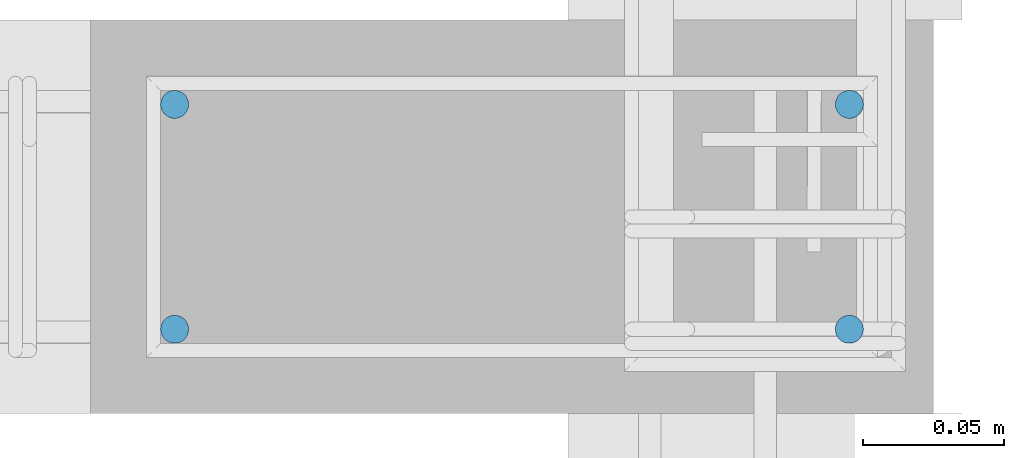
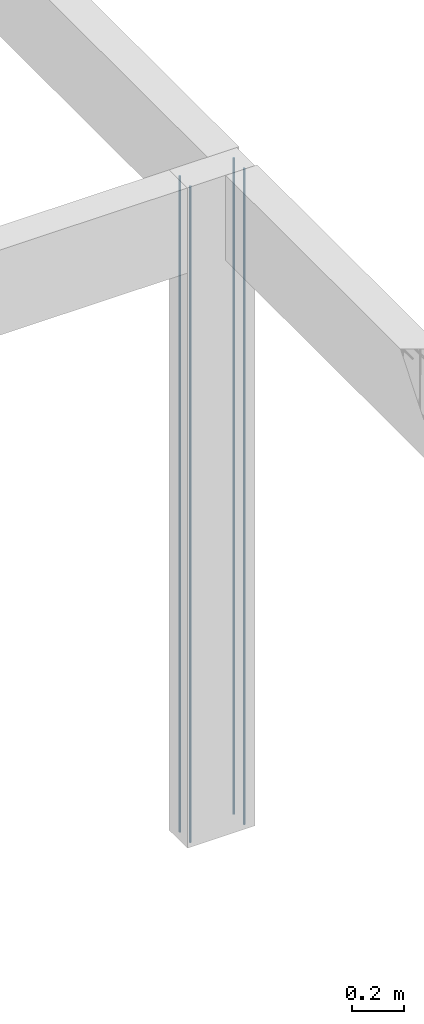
# One storey, part 62 of 236: 4 reinforcing bars.
"""IFC4 building model written with IfcOpenShell, lengths in centimetres."""

import ifcopenshell
import ifcopenshell.guid

model = None  # the IFC model being written
_history = None  # IfcOwnerHistory: only IFC2X3 demands one
_inside = {}  # id of a spatial element -> (the spatial element, [elements in it])
_under = {}  # id of a project, library or spatial element -> (it, [spatial elements below it])
_declared = {}  # id of a project -> (the project, [libraries it declares])
_typed = {}  # id of a type object -> (the type object, [elements of that type])
_made_of = {}  # id of a material, layer set ... -> (it, [elements and type objects made of it])


def new_model(schema):
    """Start an empty IFC model of exactly this schema.

    Asked for "IFC4X3", IfcOpenShell would pick the latest addendum, in which some entities
    have other attributes; the version numbers below select the first issue.
    IFC2X3 requires an IfcOwnerHistory on every rooted entity: one is made here for all.
    """
    global model, _history
    if schema == "IFC4X3":
        model = ifcopenshell.file(schema_version=(4, 3, 0, 0))
    else:
        model = ifcopenshell.file(schema=schema)
    _inside.clear()
    _under.clear()
    _declared.clear()
    _typed.clear()
    _made_of.clear()
    _history = None
    if model.schema == "IFC2X3":
        org = make("IfcOrganization", Name="unknown")
        user = make(
            "IfcPersonAndOrganization",
            ThePerson=make("IfcPerson", FamilyName="unknown"),
            TheOrganization=org,
        )
        app = make(
            "IfcApplication",
            ApplicationDeveloper=org,
            Version="unknown",
            ApplicationFullName="unknown",
            ApplicationIdentifier="unknown",
        )
        _history = make(
            "IfcOwnerHistory",
            OwningUser=user,
            OwningApplication=app,
            ChangeAction="ADDED",
            CreationDate=0,
        )
    return model


def make(cls, **values):
    """One entity of the class cls with the attributes given. An attribute that is None is left unset."""
    return model.create_entity(
        cls, **{name: value for name, value in values.items() if value is not None}
    )


def entity(cls, *values):
    """Any entity or typed value of the class cls, its attributes in the order of the schema. None: left unset."""
    e = model.create_entity(cls)
    for i, value in enumerate(values):
        if value is not None:
            e[i] = value
    return e


def rooted(cls, **values):
    """An entity with a GlobalId (a new one), such as an element, a storey or a relation."""
    return make(cls, GlobalId=ifcopenshell.guid.new(), OwnerHistory=_history, **values)


def si_unit(unit_type, name, prefix=None):
    """IfcSIUnit, for example si_unit("LENGTHUNIT", "METRE", prefix="MILLI")."""
    return make("IfcSIUnit", UnitType=unit_type, Prefix=prefix, Name=name)


def derived_unit(unit_type, elements):
    """IfcDerivedUnit: a product of units, each with its exponent."""
    return make(
        "IfcDerivedUnit",
        Elements=[
            make("IfcDerivedUnitElement", Unit=unit, Exponent=power)
            for unit, power in elements
        ],
        UnitType=unit_type,
    )


def assignment(units):
    """IfcUnitAssignment: the units of a project."""
    return None if units is None else make("IfcUnitAssignment", Units=units)


def point(xyz):
    """IfcCartesianPoint."""
    return None if xyz is None else make("IfcCartesianPoint", Coordinates=xyz)


def direction(xyz):
    """IfcDirection."""
    return None if xyz is None else make("IfcDirection", DirectionRatios=xyz)


def frame(location, z_axis=None, x_axis=None):
    """IfcAxis2Placement3D, a coordinate frame: its origin and axes. An axis left out is left unset."""
    return make(
        "IfcAxis2Placement3D",
        Location=point(location),
        Axis=direction(z_axis),
        RefDirection=direction(x_axis),
    )


def origin_with_axes():
    """The frame at (0, 0, 0) with the z axis (0, 0, 1) and the x axis (1, 0, 0) written out."""
    return frame((0.0, 0.0, 0.0), z_axis=(0.0, 0.0, 1.0), x_axis=(1.0, 0.0, 0.0))


def place(relative_to, where):
    """IfcLocalPlacement: puts the frame where relative to a parent placement (None: the world)."""
    return make(
        "IfcLocalPlacement", PlacementRelTo=relative_to, RelativePlacement=where
    )


def context(
    kind, dimensions, precision=None, world=None, true_north=None, identifier=None
):
    """IfcGeometricRepresentationContext, for example the 3D "Model" context."""
    return make(
        "IfcGeometricRepresentationContext",
        ContextIdentifier=identifier,
        ContextType=kind,
        CoordinateSpaceDimension=dimensions,
        Precision=precision,
        WorldCoordinateSystem=world,
        TrueNorth=true_north,
    )


def project(units=None, contexts=None):
    """IfcProject with its units and contexts."""
    return rooted(
        "IfcProject",
        Name="project",
        RepresentationContexts=contexts,
        UnitsInContext=assignment(units),
    )


def spatial(cls, under=None, at=None, **own):
    """A site, building, storey or space (cls), placed at a placement, below another one or the project."""
    s = rooted(cls, ObjectPlacement=at, **own)
    if under is not None:
        _under.setdefault(under.id(), (under, []))[1].append(s)
    return s


def shape(context_of_items, identifier, shape_type, items):
    """IfcShapeRepresentation: the items that make up one representation, for example the "Body"."""
    return make(
        "IfcShapeRepresentation",
        ContextOfItems=context_of_items,
        RepresentationIdentifier=identifier,
        RepresentationType=shape_type,
        Items=items,
    )


def made_of(thing, what):
    """Note that an element or type object is made of a material, layer set ...; save() writes the relation."""
    if what is not None:
        _made_of.setdefault(what.id(), (what, []))[1].append(thing)
    return thing


def element(
    cls,
    number,
    at=None,
    inside=None,
    cuts=None,
    type_object=None,
    material=None,
    context=None,
    identifier="Body",
    shape_type=None,
    held_by="IfcProductDefinitionShape",
    body=None,
    shapes=None,
    **own,
):
    """One element of the class cls, such as IfcWall. Its Tag is "e" and its number.

    at: its placement. inside: the storey or other place that contains it. cuts: it is an
    opening in that element (IfcRelVoidsElement). A single representation is given by context,
    identifier, shape_type and body (its items); several are given by shapes. held_by: the class
    of the entity that holds the representations. save() writes the other relations.
    """
    e = rooted(cls, Tag="e%d" % number, ObjectPlacement=at, **own)
    if body is not None:
        shapes = [shape(context, identifier, shape_type, body)]
    if shapes is not None:
        e.Representation = make(held_by, Representations=shapes)
    if inside is not None:
        _inside.setdefault(inside.id(), (inside, []))[1].append(e)
    if cuts is not None:
        rooted(
            "IfcRelVoidsElement", RelatingBuildingElement=cuts, RelatedOpeningElement=e
        )
    if type_object is not None:
        _typed.setdefault(type_object.id(), (type_object, []))[1].append(e)
    return made_of(e, material)


def aggregate(whole, parts):
    """IfcRelAggregates: a whole, such as a stair, and the parts it consists of."""
    return rooted("IfcRelAggregates", RelatingObject=whole, RelatedObjects=parts)


def save(model, path):
    """Write the relations noted so far, then the file.

    IfcRelAggregates (storeys below a building ...), IfcRelContainedInSpatialStructure (elements
    in a storey), IfcRelDefinesByType, IfcRelAssociatesMaterial and IfcRelDeclares: one each for
    every whole, place, type object, material and project.
    """
    for whole, parts in _under.values():
        aggregate(whole, parts)
    for where, things in _inside.values():
        rooted(
            "IfcRelContainedInSpatialStructure",
            RelatedElements=things,
            RelatingStructure=where,
        )
    for kind, things in _typed.values():
        rooted("IfcRelDefinesByType", RelatedObjects=things, RelatingType=kind)
    for what, things in _made_of.values():
        rooted("IfcRelAssociatesMaterial", RelatedObjects=things, RelatingMaterial=what)
    for by, libraries in _declared.values():
        rooted("IfcRelDeclares", RelatingContext=by, RelatedDefinitions=libraries)
    model.write(path)


model = new_model("IFC4")

# Units and contexts
model_context = context("Model", 3, precision=1e-05, world=origin_with_axes(), identifier="Body")
ifc_project = project(units=[si_unit("LENGTHUNIT", "METRE", prefix="CENTI"), si_unit("VOLUMEUNIT", "CUBIC_METRE"), si_unit("AREAUNIT", "SQUARE_METRE"), si_unit("POWERUNIT", "WATT"), si_unit("LUMINOUSFLUXUNIT", "LUMEN"), si_unit("ELECTRICCURRENTUNIT", "AMPERE"), si_unit("PRESSUREUNIT", "PASCAL", prefix="KILO"), si_unit("MASSUNIT", "GRAM", prefix="KILO"), si_unit("PLANEANGLEUNIT", "RADIAN"), derived_unit("VOLUMETRICFLOWRATEUNIT", [(si_unit("LENGTHUNIT", "METRE"), 3), (si_unit("TIMEUNIT", "SECOND"), -1)])], contexts=[model_context])

# Site, building, storey
site_placement = place(None, frame((-4000.0, 0.0, 0.0), z_axis=(0.0, 0.0, 1.0), x_axis=(1.0, 0.0, 0.0)))
site = spatial("IfcSite", under=ifc_project, at=site_placement, Name="PADRÃO")
building_placement = place(site_placement, frame((0.0, 0.0, -14.0)))
building = spatial("IfcBuilding", under=site, at=building_placement, Name="CRECHE PRÉ-ESCOLA TIPO 2")
placement_1 = place(building_placement, origin_with_axes())
placement_2 = place(placement_1, frame((0.0, 0.0, 30.0), z_axis=(0.0, 0.0, 1.0), x_axis=(1.0, 0.0, 0.0)))
storey_placement = place(placement_2, frame((0.0, 0.0, 310.0), z_axis=(0.0, 0.0, 1.0), x_axis=(1.0, 0.0, 0.0)))
storey = spatial("IfcBuildingStorey", under=building, at=storey_placement, Name="TERREO", CompositionType="ELEMENT", Elevation=326.0)

# Reinforcing bars
for number, where, z_axis, x_axis, name in (
    (1, (1097.72, 1926.5, -2.0), (0.0, 0.0, 1.0), (1.0, 0.0, 0.0), "P87 - Longitudinal"),
    (2, (1097.72, 1918.5, -2.0), (0.0, 0.0, 1.0), (1.0, 0.0, 0.0), "P87 - Longitudinal"),
    (3, (1121.72, 1918.5, -2.0), (0.0, 0.0, 1.0), (1.0, 0.0, 0.0), "P87 - Longitudinal"),
    (4, (1121.72, 1926.5, -2.0), (0.0, 0.0, 1.0), (1.0, 0.0, 0.0), "P87 - Longitudinal"),
):
    element("IfcReinforcingBar", number, at=place(storey_placement, frame(where, z_axis=z_axis, x_axis=x_axis)), inside=storey, Name=name, BarLength=0.0, CrossSectionArea=7.853981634e-05, NominalDiameter=1.0, PredefinedType="MAIN", context=model_context, shape_type="AdvancedSweptSolid", body=[
        entity("IfcSweptDiskSolid", entity("IfcCompositeCurve", [entity("IfcCompositeCurveSegment", "CONTINUOUS", True, entity("IfcPolyline", [entity("IfcCartesianPoint", [0.0, 0.0, -308.0]), entity("IfcCartesianPoint", [0.0, 0.0, 0.0])]))], False), 0.5),
    ])

save(model, "model.ifc")
